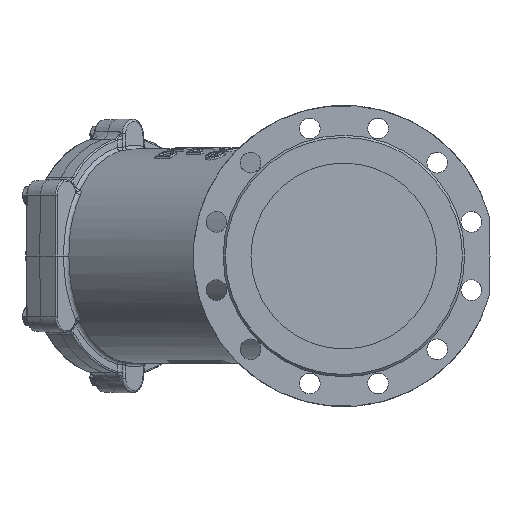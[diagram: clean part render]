
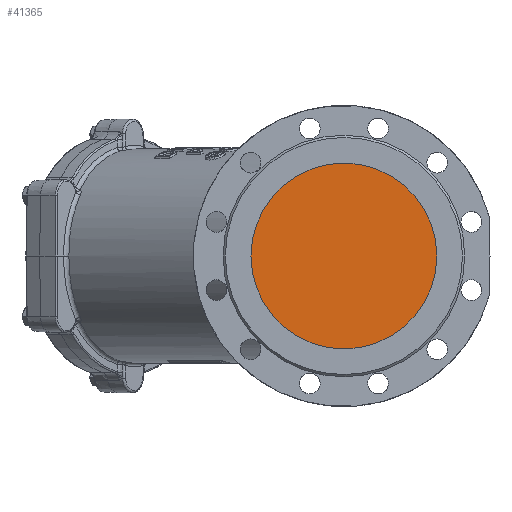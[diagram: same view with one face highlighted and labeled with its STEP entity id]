
A CAD part, left-side view. The second image highlights one B-rep face of the part: STEP entity #41365.
In plain terms, the highlighted planar face has unit normal (-1, 0, 0).
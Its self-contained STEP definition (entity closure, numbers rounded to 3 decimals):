
#3257 = AXIS2_PLACEMENT_3D ( 'NONE', #17055, #10500, #24120 ) ;
#7890 = EDGE_CURVE ( 'NONE', #70223, #70223, #46753, .T. ) ;
#10500 = DIRECTION ( 'NONE',  ( -1., 0., 0. ) ) ;
#11097 = EDGE_LOOP ( 'NONE', ( #90964 ) ) ;
#17055 = CARTESIAN_POINT ( 'NONE',  ( -291.349, 0., 0. ) ) ;
#19249 = AXIS2_PLACEMENT_3D ( 'NONE', #34128, #88098, #49750 ) ;
#24120 = DIRECTION ( 'NONE',  ( 0., 0., 1. ) ) ;
#34128 = CARTESIAN_POINT ( 'NONE',  ( -291.349, 0., 0. ) ) ;
#41365 = ADVANCED_FACE ( 'NONE', ( #57345 ), #63883, .T. ) ;
#46753 = CIRCLE ( 'NONE', #3257, 125. ) ;
#49750 = DIRECTION ( 'NONE',  ( 0., 0., 1. ) ) ;
#57345 = FACE_OUTER_BOUND ( 'NONE', #11097, .T. ) ;
#63883 = PLANE ( 'NONE',  #19249 ) ;
#69724 = CARTESIAN_POINT ( 'NONE',  ( -291.349, 0., 125. ) ) ;
#70223 = VERTEX_POINT ( 'NONE', #69724 ) ;
#88098 = DIRECTION ( 'NONE',  ( -1., 0., 0. ) ) ;
#90964 = ORIENTED_EDGE ( 'NONE', *, *, #7890, .T. ) ;
